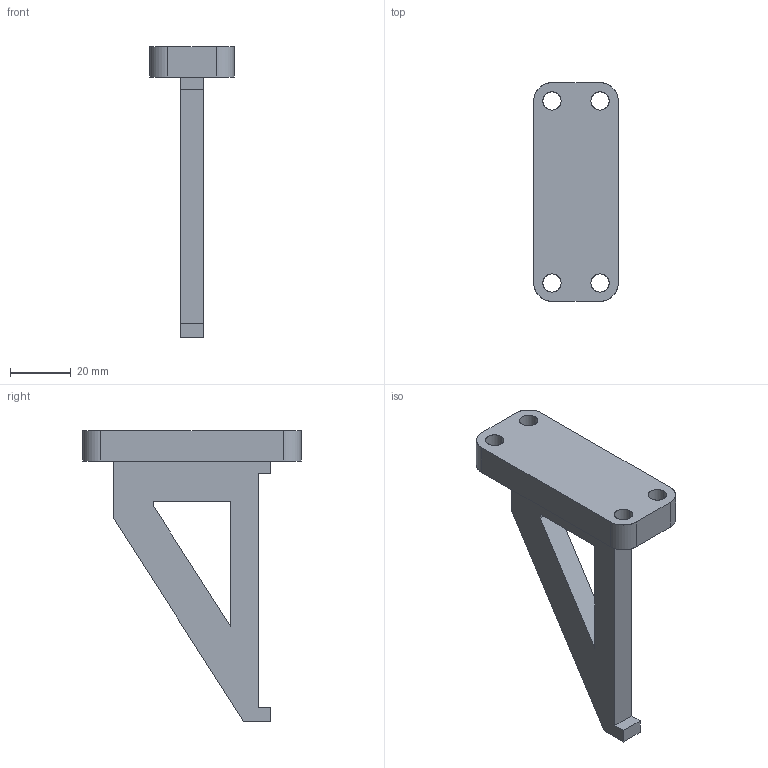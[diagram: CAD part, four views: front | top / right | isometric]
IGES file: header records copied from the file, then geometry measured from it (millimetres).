
Start section: SolidWorks IGES file using analytic representation for surfaces
Global section: file name: C:\Documents and Settings\Pc\Escritorio\Modelos 3D\Capítulo 5 (Estudio diseño)\PRACTICAS\P-13\Practica 7-1.IGS; native system: SolidWorks 2010; preprocessor: SolidWorks 2010; author: Pc; date: 100623.114257; units: millimetre
Bounding box: 27.8 x 71.87 x 95.62 mm (x, y, z)
Surface area: 12718.6 mm2 (no closed solid volume)
Topology: 0 solids, 0 shells, 32 faces, 470 edges, 470 vertices
Faces by surface type: bspline 20, revolution 12
